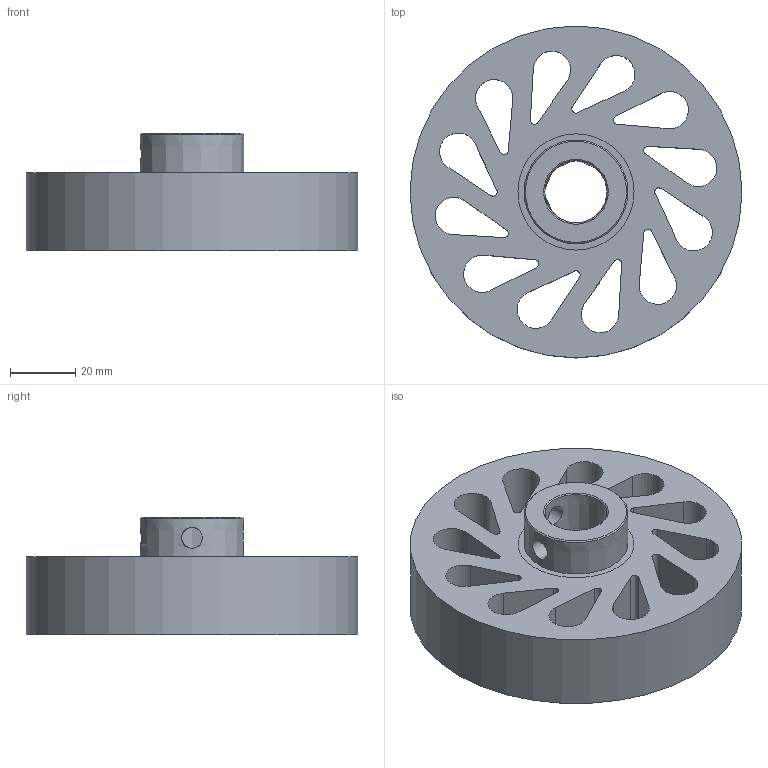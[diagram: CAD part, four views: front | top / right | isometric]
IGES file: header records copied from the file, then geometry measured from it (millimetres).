
Global section: file name: No Iges File Name specified; native system: AutoDesk Inventor R6.0; preprocessor: AutoDesk Inventor Iges Exporter R6.0; author: No Author specified; organization: No Organization specified; date: 20080103.170410; units: inch
Bounding box: 101.6 x 101.6 x 36.07 mm (x, y, z)
Surface area: 48642.1 mm2 (no closed solid volume)
Topology: 0 solids, 0 shells, 66 faces, 341 edges, 329 vertices
Faces by surface type: revolution 35, plane 30, bspline 1
